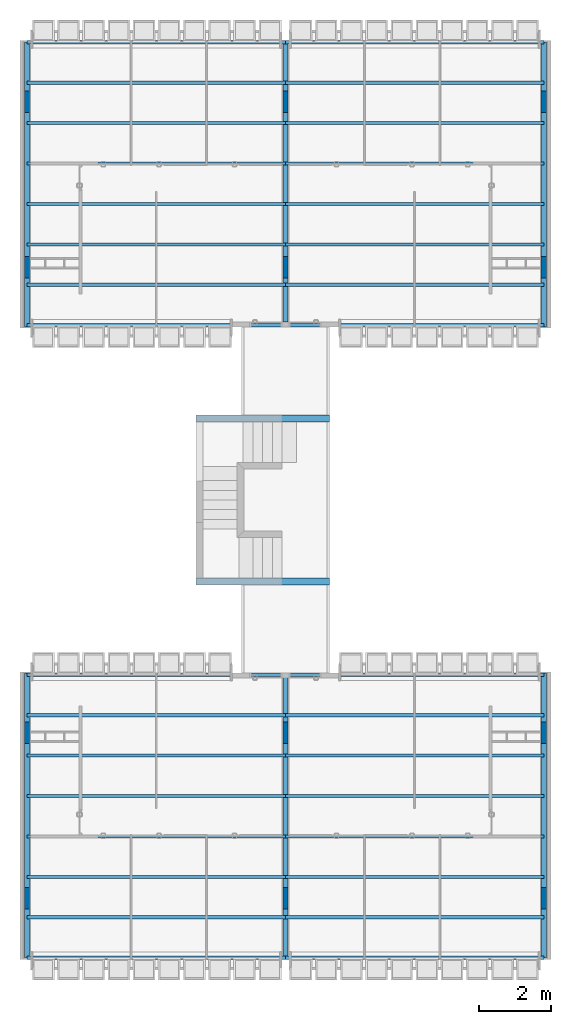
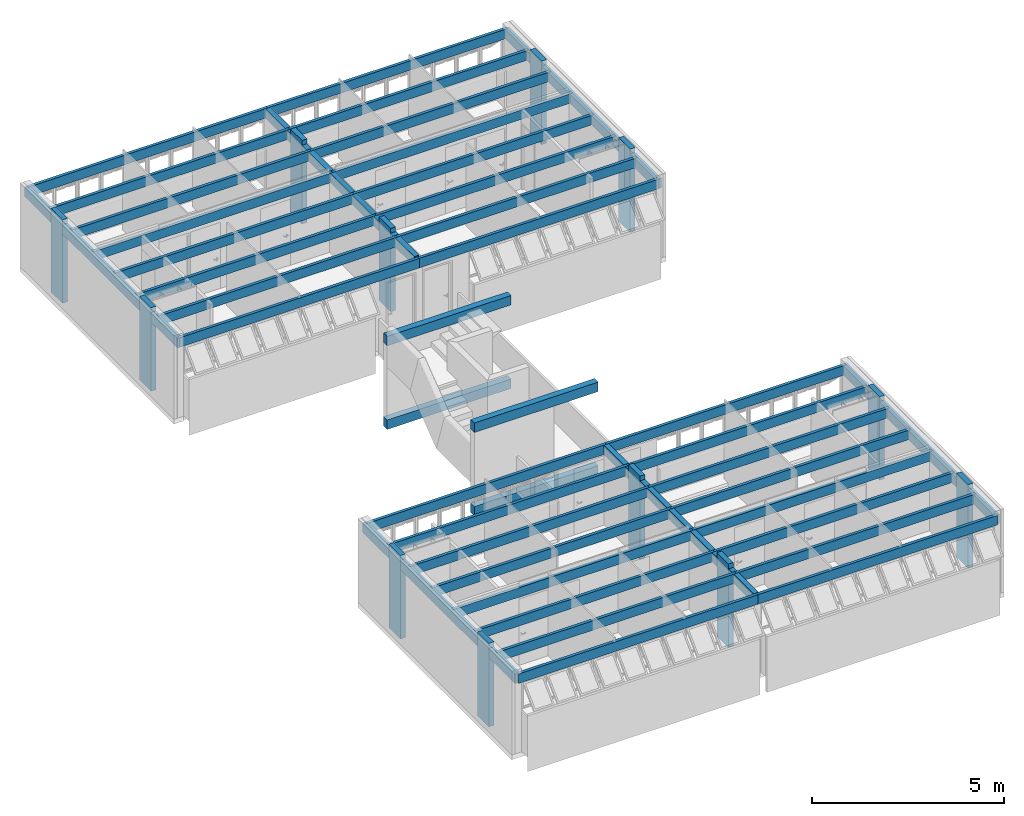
# One storey, part 1 of 37: 42 beams, 12 columns.
"""IFC2X3 building model written with IfcOpenShell, lengths in millimetres."""

from ifc_helpers import new_model, entity, si_unit, converted_unit, derived_unit, money_unit, direction, frame, frame_2d, origin_with_axes, origin_2d_with_axis, place, context, subcontext, project, spatial, rectangle, extrude, material, type_object, element, save


model = new_model("IFC2X3")

# Units and contexts
model_context = context("Model", 3, precision=0.01, world=origin_with_axes(), true_north=direction((0.0, 1.0)))
body_context = subcontext(model_context, "Body", "Model", "MODEL_VIEW")
ifc_project = project(units=[si_unit("LENGTHUNIT", "METRE", prefix="MILLI"), si_unit("AREAUNIT", "SQUARE_METRE"), si_unit("VOLUMEUNIT", "CUBIC_METRE"), converted_unit("PLANEANGLEUNIT", "DEGREE", entity("IfcPlaneAngleMeasure", 0.0174532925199), si_unit("PLANEANGLEUNIT", "RADIAN"), dimensions=[0, 0, 0, 0, 0, 0, 0]), money_unit("USD"), converted_unit("TIMEUNIT", "Year", entity("IfcTimeMeasure", 31556926.0), si_unit("TIMEUNIT", "SECOND"), dimensions=[0, 0, 1, 0, 0, 0, 0]), si_unit("MASSUNIT", "GRAM", prefix="KILO"), si_unit("THERMODYNAMICTEMPERATUREUNIT", "DEGREE_CELSIUS"), si_unit("LUMINOUSINTENSITYUNIT", "LUMEN"), si_unit("ENERGYUNIT", "JOULE", prefix="MEGA"), derived_unit("THERMALCONDUCTANCEUNIT", [(si_unit("POWERUNIT", "WATT"), 1), (si_unit("LENGTHUNIT", "METRE"), -1), (si_unit("THERMODYNAMICTEMPERATUREUNIT", "KELVIN"), -1)]), derived_unit("SPECIFICHEATCAPACITYUNIT", [(si_unit("ENERGYUNIT", "JOULE"), 1), (si_unit("MASSUNIT", "GRAM", prefix="KILO"), -1), (si_unit("THERMODYNAMICTEMPERATUREUNIT", "KELVIN"), -1)]), derived_unit("MASSDENSITYUNIT", [(si_unit("MASSUNIT", "GRAM", prefix="KILO"), 1), (si_unit("VOLUMEUNIT", "CUBIC_METRE"), -1)])], contexts=[model_context])

# Site, building, storey
site_placement = place(None, origin_with_axes())
site = spatial("IfcSite", under=ifc_project, at=site_placement, Name="Local", CompositionType="ELEMENT")
building_placement = place(site_placement, origin_with_axes())
building = spatial("IfcBuilding", under=site, at=building_placement, Name="Construção", CompositionType="ELEMENT")
storey_placement = place(building_placement, origin_with_axes())
storey = spatial("IfcBuildingStorey", under=building, at=storey_placement, Name="Primeiro Pavimento", CompositionType="ELEMENT", Elevation=0.0)

# Columns
ifc_material = material(Name="Concreto Armado Moldado in Loco - Estrutural")
column_type = type_object("IfcColumnType", Name="Concreto Armado Moldado in Loco - Estrutural 600 x 150", PredefinedType="NOTDEFINED")
for number, where, z_axis, x_axis, name in (
    (1, (14575.0, 19560.0, 0.0), (0.0, 0.0, 1.0), (0.0, 1.0, 0.0), "APTO4-PILAR-001"),
    (2, (14575.0, 24160.0, 0.0), (0.0, 0.0, 1.0), (0.0, 1.0, 0.0), "APTO4-PILAR-000"),
):
    element("IfcColumn", number, at=place(storey_placement, frame(where, z_axis=z_axis, x_axis=x_axis)), inside=storey, type_object=column_type, material=ifc_material, Name=name, context=body_context, shape_type="SweptSolid", body=[
        extrude(rectangle(XDim=600.0, YDim=150.0, at=origin_2d_with_axis()), origin_with_axes(), (0.0, 0.0, 1.0), 2650.0),
    ])
for number, where, z_axis, x_axis, name in (
    (3, (14575.0, 2000.0, 0.0), (0.0, 0.0, 1.0), (0.0, 1.0, 0.0), "APTO2-PILAR-000"),
    (4, (14575.0, 6600.0, 0.0), (0.0, 0.0, 1.0), (0.0, 1.0, 0.0), "APTO2-PILAR-001"),
    (5, (195.0, 24160.0, 0.0), (0.0, 0.0, 1.0), (0.0, -1.0, 0.0), "APTO3-PILAR-000"),
    (6, (195.0, 19560.0, 0.0), (0.0, 0.0, 1.0), (0.0, -1.0, 0.0), "APTO3-PILAR-001"),
):
    element("IfcColumn", number, at=place(storey_placement, frame(where, z_axis=z_axis, x_axis=x_axis)), inside=storey, type_object=column_type, material=ifc_material, Name=name, context=body_context, shape_type="SweptSolid", body=[
        extrude(rectangle(XDim=600.0, YDim=150.0, at=origin_2d_with_axis()), frame((0.0, 0.0, 0.0), z_axis=(0.0, 0.0, -1.0), x_axis=(-1.0, 0.0, 0.0)), (0.0, 0.0, -1.0), 2650.0),
    ])
for number, where, z_axis, x_axis, name in (
    (7, (195.0, 6600.0, 0.0), (0.0, 0.0, 1.0), (0.0, -1.0, 0.0), "APTO1-PILAR-001"),
    (8, (195.0, 2000.0, 0.0), (0.0, 0.0, 1.0), (0.0, -1.0, 0.0), "APTO1-PILAR-000"),
):
    element("IfcColumn", number, at=place(storey_placement, frame(where, z_axis=z_axis, x_axis=x_axis)), inside=storey, type_object=column_type, material=ifc_material, Name=name, context=body_context, shape_type="SweptSolid", body=[
        extrude(rectangle(XDim=600.0, YDim=150.0, at=origin_2d_with_axis()), origin_with_axes(), (0.0, 0.0, 1.0), 2650.0),
    ])
column_1_placement = place(storey_placement, frame((7385.0, 19560.0, 0.0), z_axis=(0.0, 0.0, 1.0), x_axis=(0.0, -1.0, 0.0)))
element("IfcColumn", 9, at=column_1_placement, inside=storey, type_object=column_type, material=ifc_material, Name="CIRC1-PILAR-004", context=body_context, shape_type="SweptSolid", body=[
    extrude(rectangle(XDim=600.0, YDim=150.0, at=origin_2d_with_axis()), frame((0.0, 0.0, 0.0), z_axis=(0.0, 0.0, -1.0), x_axis=(-1.0, 0.0, 0.0)), (0.0, 0.0, -1.0), 2650.0),
])
for number, where, z_axis, x_axis, name in (
    (10, (7385.0, 2000.0, 0.0), (0.0, 0.0, 1.0), (0.0, -1.0, 0.0), "CIRC1-PILAR-002"),
    (11, (7385.0, 6600.0, 0.0), (0.0, 0.0, 1.0), (0.0, -1.0, 0.0), "CIRC1-PILAR-003"),
):
    element("IfcColumn", number, at=place(storey_placement, frame(where, z_axis=z_axis, x_axis=x_axis)), inside=storey, type_object=column_type, material=ifc_material, Name=name, context=body_context, shape_type="SweptSolid", body=[
        extrude(rectangle(XDim=600.0, YDim=150.0, at=origin_2d_with_axis()), origin_with_axes(), (0.0, 0.0, 1.0), 2650.0),
    ])
column_2_placement = place(storey_placement, frame((7385.0, 24160.0, 0.0), z_axis=(0.0, 0.0, 1.0), x_axis=(0.0, -1.0, 0.0)))
element("IfcColumn", 12, at=column_2_placement, inside=storey, type_object=column_type, material=ifc_material, Name="CIRC1-PILAR-005", context=body_context, shape_type="SweptSolid", body=[
    extrude(rectangle(XDim=600.0, YDim=150.0, at=origin_2d_with_axis()), frame((0.0, 0.0, 0.0), z_axis=(0.0, 0.0, -1.0), x_axis=(-1.0, 0.0, 0.0)), (0.0, 0.0, -1.0), 2650.0),
])

# Beams
beam_type_1 = type_object("IfcBeamType", Name="Concreto Armado Moldado in Loco - Estrutural 150 x 300", PredefinedType="NOTDEFINED")
beam_1_placement = place(storey_placement, frame((14500.0, 17895.0, 2500.0), z_axis=(0.0, 0.0, 1.0), x_axis=(1.0, 0.0, 0.0)))
element("IfcBeam", 13, at=beam_1_placement, inside=storey, type_object=beam_type_1, material=ifc_material, Name="APTO4-VIGA-009", context=body_context, shape_type="SweptSolid", body=[
    extrude(rectangle(XDim=300.0, YDim=150.0, at=frame_2d((-150.0, 75.0), x_axis=(1.0, 0.0))), frame((0.0, 0.0, 0.0), z_axis=(0.0, 1.0, 0.0), x_axis=(0.0, 0.0, 1.0)), (0.0, 0.0, 1.0), 7929.97902127),
])
for number, where, z_axis, x_axis, name in (
    (14, (14500.0, 8265.0, 2500.0), (0.0, 0.0, 1.0), (-1.0, 0.0, 0.0), "APTO2-VIGA-009"),
    (15, (270.0, 17895.0, 2500.0), (0.0, 0.0, 1.0), (1.0, 0.0, 0.0), "APTO3-VIGA-009"),
):
    element("IfcBeam", number, at=place(storey_placement, frame(where, z_axis=z_axis, x_axis=x_axis)), inside=storey, type_object=beam_type_1, material=ifc_material, Name=name, context=body_context, shape_type="SweptSolid", body=[
        extrude(rectangle(XDim=300.0, YDim=150.0, at=frame_2d((-150.0, -75.0), x_axis=(1.0, 0.0))), frame((0.0, 0.0, 0.0), z_axis=(0.0, 1.0, 0.0), x_axis=(0.0, 0.0, 1.0)), (0.0, 0.0, 1.0), 7929.97902127),
    ])
for number, where, z_axis, x_axis, name in (
    (16, (270.0, 8265.0, 2500.0), (0.0, 0.0, 1.0), (-1.0, 0.0, 0.0), "APTO1-VIGA-009"),
    (17, (7460.0, 8265.0, 2500.0), (0.0, 0.0, 1.0), (-1.0, 0.0, 0.0), "CIRC1-VIGA-012"),
):
    element("IfcBeam", number, at=place(storey_placement, frame(where, z_axis=z_axis, x_axis=x_axis)), inside=storey, type_object=beam_type_1, material=ifc_material, Name=name, context=body_context, shape_type="SweptSolid", body=[
        extrude(rectangle(XDim=300.0, YDim=150.0, at=frame_2d((-150.0, 75.0), x_axis=(1.0, 0.0))), frame((0.0, 0.0, 0.0), z_axis=(0.0, 1.0, 0.0), x_axis=(0.0, 0.0, 1.0)), (0.0, 0.0, 1.0), 7929.97902127),
    ])
beam_2_placement = place(storey_placement, frame((7460.0, 25860.0, 2500.0), z_axis=(0.0, 0.0, 1.0), x_axis=(-1.0, 0.0, 0.0)))
element("IfcBeam", 18, at=beam_2_placement, inside=storey, type_object=beam_type_1, material=ifc_material, Name="VIGA-037", context=body_context, shape_type="SweptSolid", body=[
    extrude(rectangle(XDim=300.0, YDim=150.0, at=frame_2d((-150.0, 75.0), x_axis=(1.0, 0.0))), frame((0.0, 0.0, 0.0), z_axis=(0.0, 1.0, 0.0), x_axis=(0.0, 0.0, 1.0)), (0.0, 0.0, 1.0), 7825.0),
])
beam_type_2 = type_object("IfcBeamType", Name="Concreto Armado Moldado in Loco - Estrutural 90 x 300", PredefinedType="NOTDEFINED")
for number, where, z_axis, x_axis, name in (
    (19, (14575.0, 19020.0, 2500.0), (0.0, 0.0, 1.0), (0.0, 1.0, 0.0), "APTO4-VIGA-007"),
    (20, (14575.0, 20145.0, 2500.0), (0.0, 0.0, 1.0), (0.0, 1.0, 0.0), "APTO4-VIGA-006"),
    (21, (14575.0, 17895.0, 2500.0), (0.0, 0.0, 1.0), (0.0, 1.0, 0.0), "APTO4-VIGA-008"),
    (22, (14575.0, 21270.0, 2500.0), (0.0, 0.0, 1.0), (0.0, 1.0, 0.0), "APTO4-VIGA-005"),
    (23, (14575.0, 22394.7804333, 2500.0), (0.0, 0.0, 1.0), (0.0, 1.0, 0.0), "APTO4-VIGA-004"),
    (24, (14575.0, 23520.0, 2500.0), (0.0, 0.0, 1.0), (0.0, 1.0, 0.0), "APTO4-VIGA-003"),
    (25, (14575.0, 24645.0, 2500.0), (0.0, 0.0, 1.0), (0.0, 1.0, 0.0), "APTO4-VIGA-002"),
    (26, (14575.0, 25770.0, 2500.0), (0.0, 0.0, 1.0), (0.0, 1.0, 0.0), "APTO4-VIGA-001"),
):
    element("IfcBeam", number, at=place(storey_placement, frame(where, z_axis=z_axis, x_axis=x_axis)), inside=storey, type_object=beam_type_2, material=ifc_material, Name=name, context=body_context, shape_type="SweptSolid", body=[
        extrude(rectangle(XDim=300.0, YDim=90.0, at=frame_2d((-150.0, 45.0), x_axis=(1.0, 0.0))), frame((0.0, 0.0, 0.0), z_axis=(0.0, 1.0, 0.0), x_axis=(0.0, 0.0, 1.0)), (0.0, 0.0, 1.0), 7190.0),
    ])
for number, where, z_axis, x_axis, name in (
    (27, (14575.0, 390.0, 2500.0), (0.0, 0.0, 1.0), (0.0, 1.0, 0.0), "APTO2-VIGA-001"),
    (28, (14575.0, 1515.0, 2500.0), (0.0, 0.0, 1.0), (0.0, 1.0, 0.0), "APTO2-VIGA-002"),
    (29, (14575.0, 2640.0, 2500.0), (0.0, 0.0, 1.0), (0.0, 1.0, 0.0), "APTO2-VIGA-003"),
    (30, (14575.0, 3765.2195667, 2500.0), (0.0, 0.0, 1.0), (0.0, 1.0, 0.0), "APTO2-VIGA-004"),
    (31, (14575.0, 4890.0, 2500.0), (0.0, 0.0, 1.0), (0.0, 1.0, 0.0), "APTO2-VIGA-005"),
    (32, (14575.0, 8265.0, 2500.0), (0.0, 0.0, 1.0), (0.0, 1.0, 0.0), "APTO2-VIGA-008"),
    (33, (14575.0, 6015.0, 2500.0), (0.0, 0.0, 1.0), (0.0, 1.0, 0.0), "APTO2-VIGA-006"),
    (34, (14575.0, 7140.0, 2500.0), (0.0, 0.0, 1.0), (0.0, 1.0, 0.0), "APTO2-VIGA-007"),
    (35, (195.0, 25770.0, 2500.0), (0.0, 0.0, 1.0), (0.0, -1.0, 0.0), "APTO3-VIGA-001"),
    (36, (195.0, 24645.0, 2500.0), (0.0, 0.0, 1.0), (0.0, -1.0, 0.0), "APTO3-VIGA-002"),
    (37, (195.0, 23520.0, 2500.0), (0.0, 0.0, 1.0), (0.0, -1.0, 0.0), "APTO3-VIGA-003"),
    (38, (195.0, 22394.7804333, 2500.0), (0.0, 0.0, 1.0), (0.0, -1.0, 0.0), "APTO3-VIGA-004"),
    (39, (195.0, 21270.0, 2500.0), (0.0, 0.0, 1.0), (0.0, -1.0, 0.0), "APTO3-VIGA-005"),
    (40, (195.0, 17895.0, 2500.0), (0.0, 0.0, 1.0), (0.0, -1.0, 0.0), "APTO3-VIGA-008"),
    (41, (195.0, 20145.0, 2500.0), (0.0, 0.0, 1.0), (0.0, -1.0, 0.0), "APTO3-VIGA-006"),
    (42, (195.0, 19020.0, 2500.0), (0.0, 0.0, 1.0), (0.0, -1.0, 0.0), "APTO3-VIGA-007"),
):
    element("IfcBeam", number, at=place(storey_placement, frame(where, z_axis=z_axis, x_axis=x_axis)), inside=storey, type_object=beam_type_2, material=ifc_material, Name=name, context=body_context, shape_type="SweptSolid", body=[
        extrude(rectangle(XDim=300.0, YDim=90.0, at=frame_2d((-150.0, -45.0), x_axis=(1.0, 0.0))), frame((0.0, 0.0, 0.0), z_axis=(0.0, 1.0, 0.0), x_axis=(0.0, 0.0, 1.0)), (0.0, 0.0, 1.0), 7190.0),
    ])
for number, where, z_axis, x_axis, name in (
    (43, (195.0, 7140.0, 2500.0), (0.0, 0.0, 1.0), (0.0, -1.0, 0.0), "APTO1-VIGA-007"),
    (44, (195.0, 6015.0, 2500.0), (0.0, 0.0, 1.0), (0.0, -1.0, 0.0), "APTO1-VIGA-006"),
    (45, (195.0, 8265.0, 2500.0), (0.0, 0.0, 1.0), (0.0, -1.0, 0.0), "APTO1-VIGA-008"),
    (46, (195.0, 4890.0, 2500.0), (0.0, 0.0, 1.0), (0.0, -1.0, 0.0), "APTO1-VIGA-005"),
    (47, (195.0, 3765.2195667, 2500.0), (0.0, 0.0, 1.0), (0.0, -1.0, 0.0), "APTO1-VIGA-004"),
    (48, (195.0, 2640.0, 2500.0), (0.0, 0.0, 1.0), (0.0, -1.0, 0.0), "APTO1-VIGA-003"),
    (49, (195.0, 1515.0, 2500.0), (0.0, 0.0, 1.0), (0.0, -1.0, 0.0), "APTO1-VIGA-002"),
    (50, (195.0, 390.0, 2500.0), (0.0, 0.0, 1.0), (0.0, -1.0, 0.0), "APTO1-VIGA-001"),
):
    element("IfcBeam", number, at=place(storey_placement, frame(where, z_axis=z_axis, x_axis=x_axis)), inside=storey, type_object=beam_type_2, material=ifc_material, Name=name, context=body_context, shape_type="SweptSolid", body=[
        extrude(rectangle(XDim=300.0, YDim=90.0, at=frame_2d((-150.0, 45.0), x_axis=(1.0, 0.0))), frame((0.0, 0.0, 0.0), z_axis=(0.0, 1.0, 0.0), x_axis=(0.0, 0.0, 1.0)), (0.0, 0.0, 1.0), 7190.0),
    ])
beam_type_3 = type_object("IfcBeamType", Name="Concreto Armado Moldado in Loco - Estrutural 190 x 300", PredefinedType="NOTDEFINED")
for number, where, z_axis, x_axis, name in (
    (51, (4890.0, 15345.0, -300.0), (0.0, 0.0, 1.0), (0.0, -1.0, 0.0), "VIGA-030"),
    (52, (4890.0, 10815.0, -300.0), (0.0, 0.0, 1.0), (0.0, -1.0, 0.0), "VIGA-029"),
    (53, (4890.0, 15345.0, 2350.0), (0.0, 0.0, 1.0), (0.0, -1.0, 0.0), "CIRC1-VIGA-011"),
    (54, (4890.0, 10815.0, 2350.0), (0.0, 0.0, 1.0), (0.0, -1.0, 0.0), "CIRC1-VIGA-010"),
):
    element("IfcBeam", number, at=place(storey_placement, frame(where, z_axis=z_axis, x_axis=x_axis)), inside=storey, type_object=beam_type_3, material=ifc_material, Name=name, context=body_context, shape_type="SweptSolid", body=[
        extrude(rectangle(XDim=300.0, YDim=190.0, at=origin_2d_with_axis()), frame((0.0, 0.0, 0.0), z_axis=(0.0, 1.0, 0.0), x_axis=(0.0, 0.0, 1.0)), (0.0, 0.0, 1.0), 3720.0),
    ])

save(model, "model.ifc")
